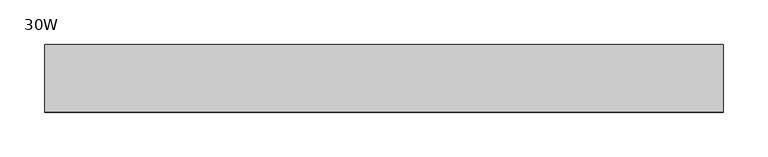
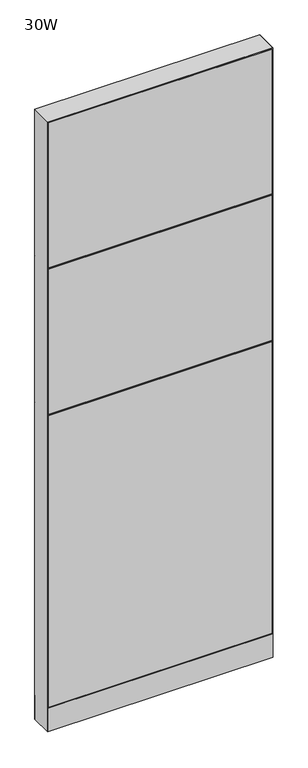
"""IFC4 building model written with IfcOpenShell, lengths in millimetres: furniture geometry, Steelcase - Montage - Frame - 86H - Enhanced Monolithic - Base Cavity : 30W."""

from ifc_helpers import new_model, si_unit, point, frame, frame_2d, origin, origin_with_axes, place, context, project, spatial, polyline, circle_curve, trimmed, segment, composite_curve, outline, extrude, faceted_brep, source, transform, mapped, element, save


def furniture_30w_7e784fb6(model_context):
    return source(origin(), model_context, "Body", "SolidModel", [
        faceted_brep([(-5.4e-06, 38.102627, 1136.6500027), (6.3499917, 31.7526299, 1142.9999997), (755.6500047, 31.7526299, 1142.9999997), (762.0, 38.1026253, 1136.6500044), (755.6500047, 31.7526299, 1130.3000003), (6.3499917, 31.7526299, 1130.3000003)], [[[0, 1, 2, 3]], [[3, 4, 5, 0]], [[1, 5, 4, 2]], [[0, 5, 1]], [[2, 4, 3]]]),
        faceted_brep([(755.6500047, 31.7526299, 1666.8749997), (755.6500047, 31.7526299, 1654.1750003), (762.0, 38.1026253, 1660.5249956), (-5.4e-06, 38.102627, 1660.5250027), (6.3499917, 31.7526299, 1666.8749997), (6.3499917, 31.7526299, 1654.1750003)], [[[0, 1, 2]], [[3, 4, 0, 2]], [[2, 1, 5, 3]], [[4, 5, 1, 0]], [[3, 5, 4]]]),
        extrude(outline(polyline([(3.175, 31.7500194), (3.175, 38.1000194), (758.825, 38.1000194), (758.825, 31.7500194), (3.175, 31.7500194)])), frame((0.0, 0.0, 1663.7), z_axis=(0.0, 0.0, 1.0), x_axis=(1.0, 0.0, 0.0)), (0.0, 0.0, 1.0), 517.525),
        extrude(outline(polyline([(3.175, 31.7500194), (3.175, 38.1000194), (758.825, 38.1000194), (758.825, 31.7500194), (3.175, 31.7500194)])), frame((0.0, 0.0, 1139.825), z_axis=(0.0, 0.0, 1.0), x_axis=(1.0, 0.0, 0.0)), (0.0, 0.0, 1.0), 517.525),
        extrude(outline(polyline([(3.175, 31.7500194), (3.175, 38.1000194), (758.825, 38.1000194), (758.825, 31.7500194), (3.175, 31.7500194)])), frame((0.0, 0.0, 92.075), z_axis=(0.0, 0.0, 1.0), x_axis=(1.0, 0.0, 0.0)), (0.0, 0.0, 1.0), 1041.4),
        faceted_brep([(0.0, -38.1026297, 1136.65), (762.0, -38.1026297, 1136.65), (755.6500047, -31.7526299, 1142.9999997), (6.3499917, -31.7526299, 1142.9999997), (6.3499917, -31.7526299, 1130.3000003), (755.6500047, -31.7526299, 1130.3000003)], [[[0, 1, 2, 3]], [[1, 0, 4, 5]], [[3, 2, 5, 4]], [[0, 3, 4]], [[2, 1, 5]]]),
        faceted_brep([(755.6500047, -31.7526299, 1666.8749997), (762.0, -38.1026253, 1660.5250044), (755.6500047, -31.7526299, 1654.1750003), (0.0, -38.1026297, 1660.525), (6.3499917, -31.7526299, 1666.8749997), (6.3499917, -31.7526299, 1654.1750003)], [[[0, 1, 2]], [[3, 1, 0, 4]], [[1, 3, 5, 2]], [[4, 0, 2, 5]], [[3, 4, 5]]]),
        extrude(outline(polyline([(3.175, -31.7500194), (758.825, -31.7500194), (758.825, -38.1000194), (3.175, -38.1000194), (3.175, -31.7500194)])), frame((0.0, 0.0, 1663.7), z_axis=(0.0, 0.0, 1.0), x_axis=(1.0, 0.0, 0.0)), (0.0, 0.0, 1.0), 517.525),
        extrude(outline(polyline([(3.175, -31.7500194), (758.825, -31.7500194), (758.825, -38.1000194), (3.175, -38.1000194), (3.175, -31.7500194)])), frame((0.0, 0.0, 1139.825), z_axis=(0.0, 0.0, 1.0), x_axis=(1.0, 0.0, 0.0)), (0.0, 0.0, 1.0), 517.525),
        extrude(outline(polyline([(3.175, -31.7500194), (758.825, -31.7500194), (758.825, -38.1000194), (3.175, -38.1000194), (3.175, -31.7500194)])), frame((0.0, 0.0, 92.075), z_axis=(0.0, 0.0, 1.0), x_axis=(1.0, 0.0, 0.0)), (0.0, 0.0, 1.0), 1041.4),
        extrude(outline(polyline([(6.350003, -31.7499985), (755.649997, -31.7499985), (762.0, -38.1000015), (0.0, -38.1000015), (6.350003, -31.7499985)])), frame((0.0, 0.0, 4.064), z_axis=(0.0, 0.0, 1.0), x_axis=(1.0, 0.0, 0.0)), (0.0, 0.0, 1.0), 84.835997),
        extrude(outline(polyline([(6.3500002, 31.7500017), (0.0, 38.1000015), (762.0, 38.1000015), (755.6500002, 31.7500017), (6.3500002, 31.7500017)])), frame((0.0, 0.0, 4.064), z_axis=(0.0, 0.0, 1.0), x_axis=(1.0, 0.0, 0.0)), (0.0, 0.0, 1.0), 84.835997),
        faceted_brep([(762.0, -38.1000015, 2184.4), (0.0, -38.1000015, 2184.4), (6.3500484, -31.749953, 2178.0499516), (755.6499516, -31.749953, 2178.0499516), (6.3500484, 31.749953, 2178.0499516), (755.6499516, 31.749953, 2178.0499516), (0.0, 38.1000015, 2184.4), (762.0, 38.1000015, 2184.4)], [[[0, 1, 2, 3]], [[3, 2, 4, 5]], [[6, 7, 5, 4]], [[1, 0, 7, 6]], [[2, 1, 6, 4]], [[0, 3, 5, 7]]]),
        extrude(outline(composite_curve([segment(trimmed(circle_curve(frame_2d((44.45, 0.0)), 15.24), [point((29.21, 0.0))], [point((59.69, 0.0))], False, "CARTESIAN"), True, "CONTINUOUS"), segment(trimmed(circle_curve(frame_2d((44.45, 0.0)), 15.24), [point((59.69, 0.0))], [point((29.21, 0.0))], False, "CARTESIAN"), True, "CONTINUOUS")], self_intersect=False)), origin_with_axes(), (0.0, 0.0, 1.0), 4.064),
        extrude(outline(composite_curve([segment(trimmed(circle_curve(frame_2d((717.55, 0.0)), 15.24), [point((702.31, 0.0))], [point((732.79, 0.0))], False, "CARTESIAN"), True, "CONTINUOUS"), segment(trimmed(circle_curve(frame_2d((717.55, 0.0)), 15.24), [point((732.79, 0.0))], [point((702.31, 0.0))], False, "CARTESIAN"), True, "CONTINUOUS")], self_intersect=False)), origin_with_axes(), (0.0, 0.0, 1.0), 4.064),
        faceted_brep([(762.0, -38.1000106, 4.064), (762.0, 38.1000015, 4.064), (762.0, 38.1000015, 2184.4), (762.0, -38.1000106, 2184.3999637), (0.0, 38.1000015, 4.064), (0.0, -38.1000015, 4.064), (0.0, -38.1000015, 2184.4), (0.0, 38.1000015, 2184.4), (755.6499879, 31.7500017, 606.425), (6.35, 31.7500017, 606.425), (6.3499998, 31.7500017, 619.125), (755.6499879, 31.7500017, 619.125), (6.35, -31.7499985, 619.125), (755.6499879, -31.7499985, 619.125), (6.350003, -31.7499985, 606.425), (755.6499879, -31.7499985, 606.425), (755.6499879, 31.7500017, 1130.3), (6.35, 31.7500017, 1130.3), (6.3499998, 31.7500017, 1143.0), (755.6499879, 31.7500017, 1143.0), (6.35, -31.7499985, 1143.0), (755.6499879, -31.7499985, 1143.0), (6.350003, -31.7499985, 1130.3), (755.6499879, -31.7499985, 1130.3), (6.35, 31.7500015, 4.064), (6.35, -31.7500015, 4.064), (755.6499879, 31.7499894, 4.064), (755.6499879, -31.7499985, 4.064), (6.35, 31.7500015, 2178.05), (6.3499999, 31.7500016, 1666.875), (6.3499998, 31.7500017, 1654.175), (6.3500015, -31.75, 1654.175), (6.350003, -31.7499985, 1666.875), (6.35, -31.7500015, 2178.05), (755.6499879, 31.7500017, 1654.175), (755.6499879, -31.7499985, 1654.175), (755.6499879, 31.7500017, 1666.875), (755.6499879, -31.7499985, 1666.875), (755.6499879, -31.7499985, 2178.0499516), (755.6499879, 31.7499895, 2178.0499516)], [[[0, 1, 2, 3]], [[4, 5, 6, 7]], [[8, 9, 10, 11]], [[11, 10, 12, 13]], [[13, 12, 14, 15]], [[9, 8, 15, 14]], [[16, 17, 18, 19]], [[19, 18, 20, 21]], [[21, 20, 22, 23]], [[17, 16, 23, 22]], [[24, 25, 5, 4]], [[26, 1, 0, 27]], [[24, 4, 7, 28, 29, 30, 18, 17, 10, 9]], [[5, 25, 14, 12, 22, 20, 31, 32, 33, 6]], [[25, 24, 9, 14]], [[18, 30, 31, 20]], [[10, 17, 22, 12]], [[32, 29, 28, 33]], [[26, 27, 15, 8]], [[16, 11, 13, 23]], [[34, 19, 21, 35]], [[36, 37, 38, 39]], [[27, 0, 3, 38, 37, 35, 21, 23, 13, 15]], [[1, 26, 8, 11, 16, 19, 34, 36, 39, 2]], [[7, 6, 33, 28]], [[3, 2, 39, 38]], [[34, 30, 29, 36]], [[36, 29, 32, 37]], [[37, 32, 31, 35]], [[30, 34, 35, 31]]]),
    ])


if __name__ == "__main__":
    model = new_model("IFC4")
    model_context = context("Model", 3, world=origin())
    ifc_project = project(units=[si_unit("LENGTHUNIT", "METRE", prefix="MILLI")], contexts=[model_context])
    site = spatial("IfcSite", under=ifc_project)
    building = spatial("IfcBuilding", under=site)
    placement = place(None, origin())
    furniture_30w_shape = furniture_30w_7e784fb6(model_context)
    element("IfcFurniture", 1, ObjectType="Steelcase - Montage - Frame - 86H - Enhanced Monolithic - Base Cavity : 30W", at=placement, inside=building, context=model_context, shape_type="MappedRepresentation", body=[
        mapped(furniture_30w_shape, transform((0.0, 0.0, 0.0), x_axis=(1.0, 0.0, 0.0), y_axis=(0.0, 1.0, 0.0), z_axis=(0.0, 0.0, 1.0))),
    ])
    save(model, "model.ifc")
